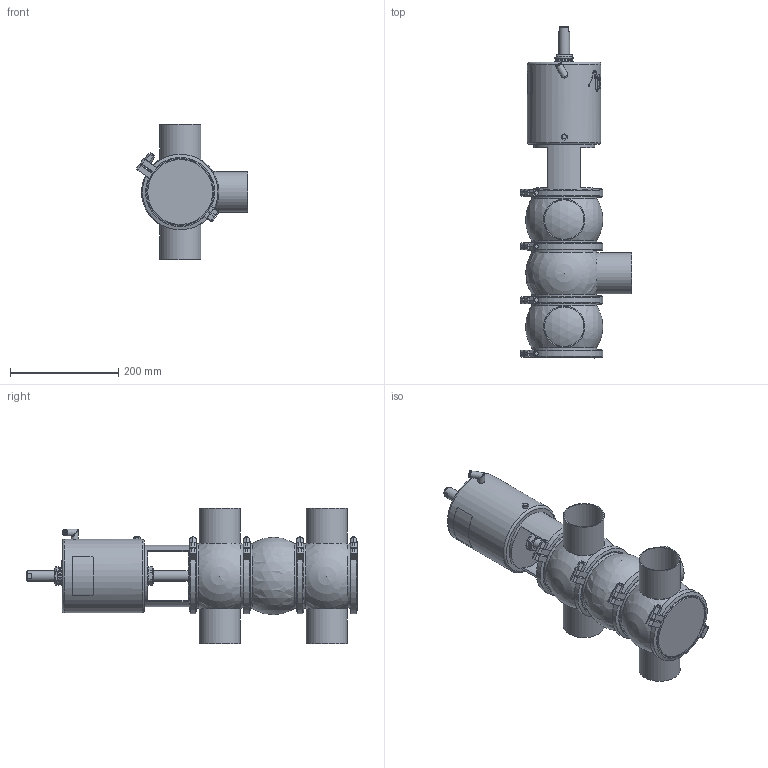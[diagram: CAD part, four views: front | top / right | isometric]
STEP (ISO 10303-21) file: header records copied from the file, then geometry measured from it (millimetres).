
FILE_DESCRIPTION (( 'STEP AP214' ), '1' );
FILE_NAME ('INNOVA L W W OD 3 T3 AS NC_10.241.16.0028.STEP', '2024-08-07T07:09:30', ( '' ), ( '' ), 'SwSTEP 2.0', 'SolidWorks 2023', '' );
FILE_SCHEMA (( 'AUTOMOTIVE_DESIGN' ));
Length unit declared in the file: millimetre
Products named in the file (7): INNOVA L W W OD 3 T3 AS NC_10.241.16.0028; 10.240.15.0014_T3 AS P180; 10.240.15.0006_OD 3"; 10.240.15.0001_DN 080; 10.240.15.0010_DN 080; 10.240.15.0007_OD 3"; 10.241.15.0001_DIN 080
Assembly tree (10 placements, depth 2):
  INNOVA L W W OD 3 T3 AS NC_10.241.16.0028
    10.240.15.0007_OD 3"  x2
    10.240.15.0006_OD 3"
    10.240.15.0010_DN 080
    10.240.15.0014_T3 AS P180
    10.240.15.0001_DN 080  x4
    10.241.15.0001_DIN 080
Bounding box: 206.43 x 613.63 x 250 mm (x, y, z)
Volume: 6979579.1 mm3; surface area: 670150.4 mm2
Topology: 11 solids, 11 shells, 540 faces, 1416 edges, 923 vertices
Faces by surface type: plane 262, cylinder 140, bspline 80, cone 46, sphere 8, torus 4
Full cylindrical faces by diameter (mm): 6.15 x1, 8 x9, 8.5 x1, 10.5 x1, 12.5 x3, 16 x1, 20 x2, 31 x1, 34.5 x2, 36.5 x1, 72.9 x5, 76.2 x5, 113 x1, 120 x7, 132 x8, 136 x1
Entity records: 20751 total; most frequent: CARTESIAN_POINT 11322, ORIENTED_EDGE 1624, DIRECTION 1275, EDGE_CURVE 812, VERTEX_POINT 563, AXIS2_PLACEMENT_3D 493, EDGE_LOOP 431, FACE_OUTER_BOUND 386
